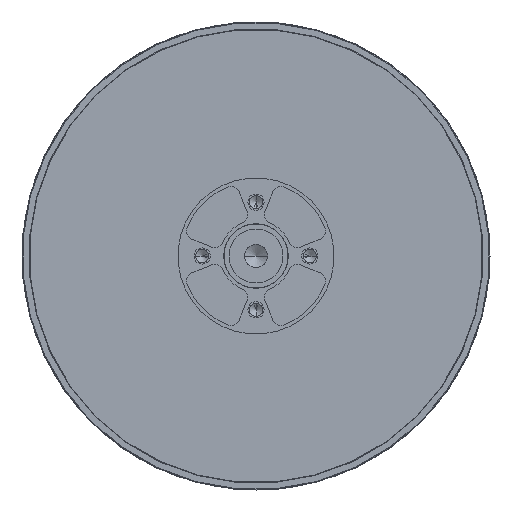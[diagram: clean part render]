
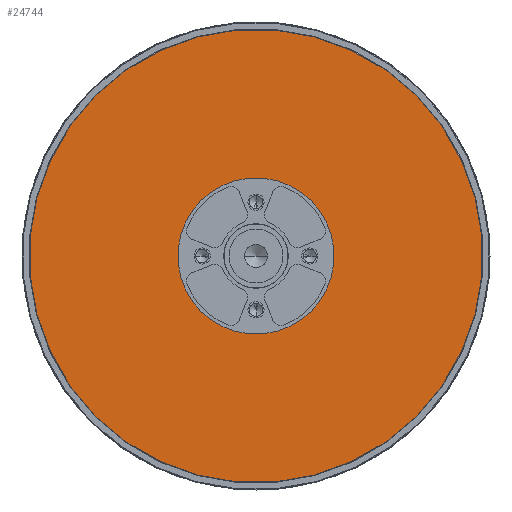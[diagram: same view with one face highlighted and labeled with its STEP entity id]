
A CAD part, left-side view. The second image highlights one B-rep face of the part: STEP entity #24744.
In plain terms, the highlighted planar face has unit normal (-1, 0, 0).
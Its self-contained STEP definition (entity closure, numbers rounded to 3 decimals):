
#8016=CARTESIAN_POINT('',(3.,0.,0.));
#8017=DIRECTION('',(-1.,0.,0.));
#8018=DIRECTION('',(0.,-0.966,0.259));
#8019=AXIS2_PLACEMENT_3D('',#8016,#8017,#8018);
#8024=CARTESIAN_POINT('',(3.,0.,0.));
#8025=DIRECTION('',(-1.,0.,0.));
#8026=DIRECTION('',(0.,0.966,-0.259));
#8027=AXIS2_PLACEMENT_3D('',#8024,#8025,#8026);
#8032=CARTESIAN_POINT('',(3.,0.,0.));
#8033=DIRECTION('',(-1.,0.,0.));
#8034=DIRECTION('',(0.,0.966,-0.259));
#8035=AXIS2_PLACEMENT_3D('',#8032,#8033,#8034);
#8040=CARTESIAN_POINT('',(3.,0.,0.));
#8041=DIRECTION('',(1.,0.,0.));
#8042=DIRECTION('',(0.,0.966,-0.259));
#8043=AXIS2_PLACEMENT_3D('',#8040,#8041,#8042);
#13801=CARTESIAN_POINT('',(3.,13.958,-3.74));
#13802=VERTEX_POINT('',#13801);
#13809=CARTESIAN_POINT('',(3.,-13.958,3.74));
#13810=VERTEX_POINT('',#13809);
#14047=CARTESIAN_POINT('',(3.,-40.665,10.896));
#14048=CARTESIAN_POINT('',(3.,40.665,-10.896));
#14049=VERTEX_POINT('',#14047);
#14050=VERTEX_POINT('',#14048);
#24728=CARTESIAN_POINT('',(3.,0.,0.));
#24729=DIRECTION('',(-1.,0.,0.));
#24730=DIRECTION('',(0.,0.966,-0.259));
#24731=AXIS2_PLACEMENT_3D('',#24728,#24729,#24730);
#24732=PLANE('',#24731);
#24733=ORIENTED_EDGE('',*,*,#24711,.F.);
#24735=ORIENTED_EDGE('',*,*,#24734,.F.);
#24736=EDGE_LOOP('',(#24733,#24735));
#24737=FACE_OUTER_BOUND('',#24736,.F.);
#24739=ORIENTED_EDGE('',*,*,#24738,.T.);
#24741=ORIENTED_EDGE('',*,*,#24740,.F.);
#24742=EDGE_LOOP('',(#24739,#24741));
#24743=FACE_BOUND('',#24742,.F.);
#24744=ADVANCED_FACE('',(#24737,#24743),#24732,.T.);
#8020=CIRCLE('',#8019,42.1);
#8028=CIRCLE('',#8027,42.1);
#8036=CIRCLE('',#8035,14.45);
#8044=CIRCLE('',#8043,14.45);
#24711=EDGE_CURVE('',#14049,#14050,#8020,.T.);
#24734=EDGE_CURVE('',#14050,#14049,#8028,.T.);
#24738=EDGE_CURVE('',#13802,#13810,#8036,.T.);
#24740=EDGE_CURVE('',#13802,#13810,#8044,.T.);
